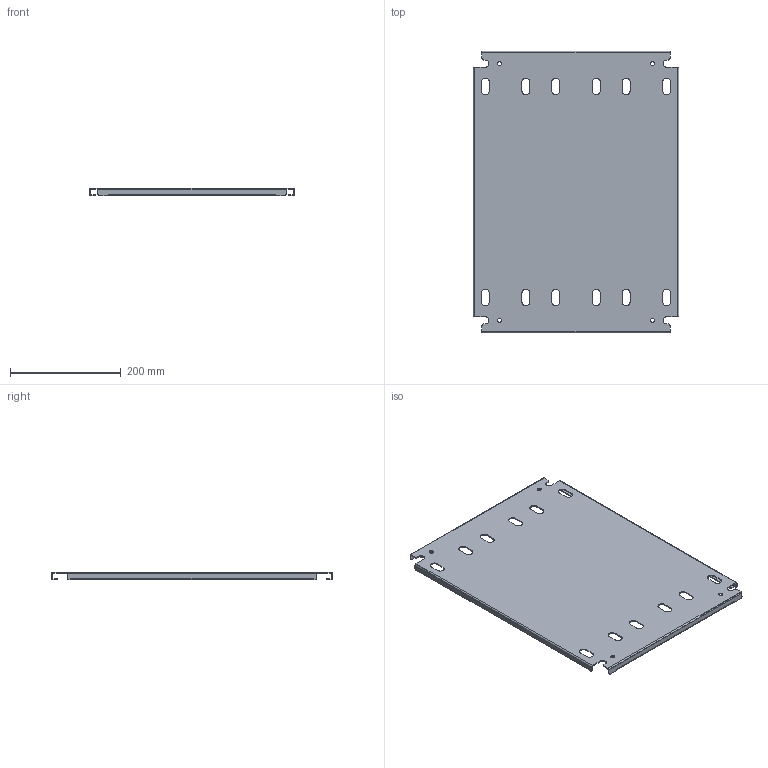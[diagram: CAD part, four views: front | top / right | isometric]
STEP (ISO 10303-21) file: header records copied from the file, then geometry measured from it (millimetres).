
FILE_DESCRIPTION(/* description */ ('1412BTSSCU 14.625" x 20" Inner Panel'),/* implementation_level */ '2;1');
FILE_NAME(/* name */ 'C:\Vault_Workspace\Inventor_Dwg\BoxCad\Result\1412BTSSCU03403\e-mail\3D\1412BTSSCU03403IP1.stp',/* time_stamp */ '2022-09-02T08:18:26-04:00',/* author */ ('BoxCad'),/* organization */ (''),/* preprocessor_version */ 'ST-DEVELOPER v18.1',/* originating_system */ 'Autodesk Inventor 2020',/* authorisation */ '');
FILE_SCHEMA (('AUTOMOTIVE_DESIGN { 1 0 10303 214 3 1 1 }'));
Length unit declared in the file: inch
Products named in the file (2): 1412BTSSCU03403IP1; 1412BTSSCU03403IP1-P
Assembly tree (1 placements, depth 2):
  1412BTSSCU03403IP1
    1412BTSSCU03403IP1-P
Bounding box: 371.48 x 508 x 13 mm (x, y, z)
Volume: 363164.7 mm3; surface area: 425713.7 mm2
Topology: 1 solids, 1 shells, 158 faces, 468 edges, 312 vertices
Faces by surface type: plane 90, cylinder 68
Full cylindrical faces by diameter (mm): 7.366 x4
Entity records: 5441 total; most frequent: CARTESIAN_POINT 941, ORIENTED_EDGE 936, DIRECTION 926, EDGE_CURVE 468, LINE 332, VECTOR 332, VERTEX_POINT 312, AXIS2_PLACEMENT_3D 297
